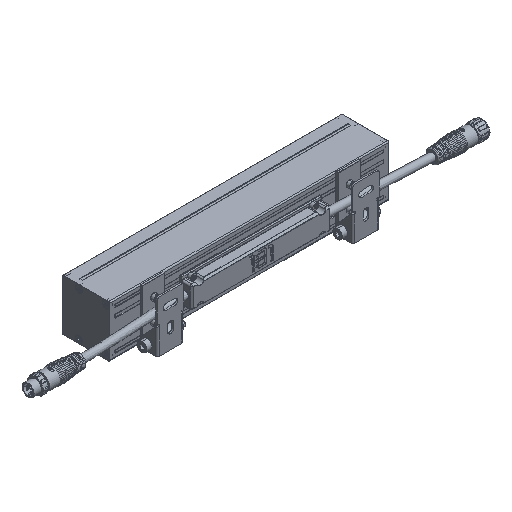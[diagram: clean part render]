
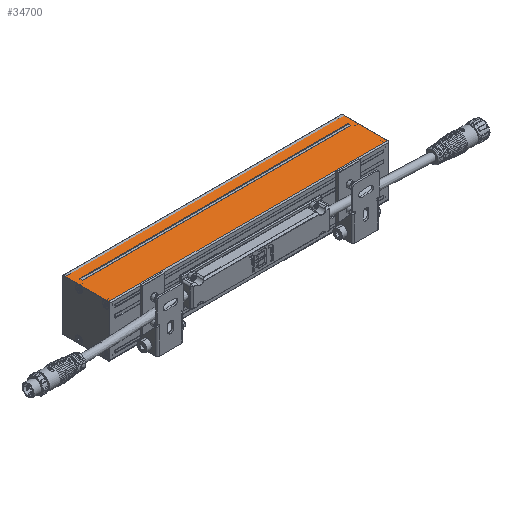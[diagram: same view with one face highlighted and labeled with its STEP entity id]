
A CAD part, isometric view. The second image highlights one B-rep face of the part: STEP entity #34700.
In plain terms, the highlighted planar face has unit normal (0, 0, 1).
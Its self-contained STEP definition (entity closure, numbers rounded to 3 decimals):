
#29 = AXIS2_PLACEMENT_3D ( 'NONE', #28661, #28434, #17991 ) ;
#2265 = LINE ( 'NONE', #37986, #38588 ) ;
#2694 = EDGE_CURVE ( 'NONE', #42767, #36406, #13597, .T. ) ;
#2970 = VECTOR ( 'NONE', #8075, 1000. ) ;
#3177 = DIRECTION ( 'NONE',  ( -1., 0., 0. ) ) ;
#3619 = FACE_OUTER_BOUND ( 'NONE', #38873, .T. ) ;
#3625 = DIRECTION ( 'NONE',  ( 1., 0., 0. ) ) ;
#3873 = VERTEX_POINT ( 'NONE', #8732 ) ;
#4139 = VECTOR ( 'NONE', #9908, 1000. ) ;
#4234 = ORIENTED_EDGE ( 'NONE', *, *, #34027, .F. ) ;
#4340 = VERTEX_POINT ( 'NONE', #43815 ) ;
#5884 = EDGE_CURVE ( 'NONE', #22429, #19427, #45108, .T. ) ;
#7055 = CARTESIAN_POINT ( 'NONE',  ( 124.8, 18., 23. ) ) ;
#7353 = FACE_BOUND ( 'NONE', #26880, .T. ) ;
#8063 = DIRECTION ( 'NONE',  ( -1., 0., 0. ) ) ;
#8075 = DIRECTION ( 'NONE',  ( 0., 1., 0. ) ) ;
#8732 = CARTESIAN_POINT ( 'NONE',  ( -124.8, 56.8, 23. ) ) ;
#8802 = VECTOR ( 'NONE', #8063, 1000. ) ;
#9232 = LINE ( 'NONE', #37284, #11609 ) ;
#9324 = ORIENTED_EDGE ( 'NONE', *, *, #12240, .T. ) ;
#9532 = CARTESIAN_POINT ( 'NONE',  ( -124.8, 18., 23. ) ) ;
#9908 = DIRECTION ( 'NONE',  ( 0., 1., 0. ) ) ;
#10465 = CARTESIAN_POINT ( 'NONE',  ( 120., 46.1, 23. ) ) ;
#10970 = ORIENTED_EDGE ( 'NONE', *, *, #21047, .T. ) ;
#11495 = ORIENTED_EDGE ( 'NONE', *, *, #35176, .F. ) ;
#11609 = VECTOR ( 'NONE', #15507, 1000. ) ;
#12068 = VECTOR ( 'NONE', #34891, 1000. ) ;
#12240 = EDGE_CURVE ( 'NONE', #22429, #40994, #9232, .T. ) ;
#13597 = LINE ( 'NONE', #20572, #36231 ) ;
#15507 = DIRECTION ( 'NONE',  ( 0., 1., 0. ) ) ;
#15659 = EDGE_CURVE ( 'NONE', #30532, #26973, #17787, .T. ) ;
#15832 = CARTESIAN_POINT ( 'NONE',  ( -120., 56.8, 23. ) ) ;
#16560 = ORIENTED_EDGE ( 'NONE', *, *, #2694, .F. ) ;
#17787 = LINE ( 'NONE', #40801, #27327 ) ;
#17991 = DIRECTION ( 'NONE',  ( 0., 1., 0. ) ) ;
#18383 = LINE ( 'NONE', #32518, #31248 ) ;
#18727 = CARTESIAN_POINT ( 'NONE',  ( -124.8, 18., 23. ) ) ;
#18944 = CARTESIAN_POINT ( 'NONE',  ( 124.8, 56.8, 23. ) ) ;
#19427 = VERTEX_POINT ( 'NONE', #9532 ) ;
#19830 = EDGE_CURVE ( 'NONE', #35746, #26973, #23323, .T. ) ;
#20572 = CARTESIAN_POINT ( 'NONE',  ( -120., 56.8, 23. ) ) ;
#20736 = VECTOR ( 'NONE', #30504, 1000. ) ;
#21047 = EDGE_CURVE ( 'NONE', #35746, #4340, #2265, .T. ) ;
#22429 = VERTEX_POINT ( 'NONE', #45681 ) ;
#22442 = ORIENTED_EDGE ( 'NONE', *, *, #28955, .T. ) ;
#23323 = LINE ( 'NONE', #37449, #20736 ) ;
#23610 = CARTESIAN_POINT ( 'NONE',  ( -120., 18., 23. ) ) ;
#25394 = ORIENTED_EDGE ( 'NONE', *, *, #5884, .F. ) ;
#26751 = ORIENTED_EDGE ( 'NONE', *, *, #33095, .T. ) ;
#26880 = EDGE_LOOP ( 'NONE', ( #10970, #22442, #31117, #39314 ) ) ;
#26973 = VERTEX_POINT ( 'NONE', #27481 ) ;
#27327 = VECTOR ( 'NONE', #3625, 1000. ) ;
#27481 = CARTESIAN_POINT ( 'NONE',  ( 120., 48.7, 23. ) ) ;
#27966 = DIRECTION ( 'NONE',  ( 1., 0., 0. ) ) ;
#28434 = DIRECTION ( 'NONE',  ( 0., 0., 1. ) ) ;
#28661 = CARTESIAN_POINT ( 'NONE',  ( 125., 17.8, 23. ) ) ;
#28955 = EDGE_CURVE ( 'NONE', #4340, #30532, #44245, .T. ) ;
#29140 = LINE ( 'NONE', #35670, #8802 ) ;
#30504 = DIRECTION ( 'NONE',  ( 0., 1., 0. ) ) ;
#30532 = VERTEX_POINT ( 'NONE', #31906 ) ;
#31117 = ORIENTED_EDGE ( 'NONE', *, *, #15659, .T. ) ;
#31248 = VECTOR ( 'NONE', #39456, 1000. ) ;
#31906 = CARTESIAN_POINT ( 'NONE',  ( -120., 48.7, 23. ) ) ;
#31910 = PLANE ( 'NONE',  #29 ) ;
#32518 = CARTESIAN_POINT ( 'NONE',  ( 120., 56.8, 23. ) ) ;
#33095 = EDGE_CURVE ( 'NONE', #42767, #3873, #29140, .T. ) ;
#34027 = EDGE_CURVE ( 'NONE', #19427, #3873, #43787, .T. ) ;
#34700 = ADVANCED_FACE ( 'NONE', ( #7353, #3619 ), #31910, .T. ) ;
#34891 = DIRECTION ( 'NONE',  ( -1., 0., 0. ) ) ;
#35176 = EDGE_CURVE ( 'NONE', #36406, #40994, #18383, .T. ) ;
#35670 = CARTESIAN_POINT ( 'NONE',  ( -120., 56.8, 23. ) ) ;
#35746 = VERTEX_POINT ( 'NONE', #10465 ) ;
#36231 = VECTOR ( 'NONE', #27966, 1000. ) ;
#36406 = VERTEX_POINT ( 'NONE', #44508 ) ;
#37284 = CARTESIAN_POINT ( 'NONE',  ( 124.8, 18., 23. ) ) ;
#37449 = CARTESIAN_POINT ( 'NONE',  ( 120., 18., 23. ) ) ;
#37986 = CARTESIAN_POINT ( 'NONE',  ( 120., 46.1, 23. ) ) ;
#38588 = VECTOR ( 'NONE', #3177, 1000. ) ;
#38873 = EDGE_LOOP ( 'NONE', ( #4234, #25394, #9324, #11495, #16560, #26751 ) ) ;
#39314 = ORIENTED_EDGE ( 'NONE', *, *, #19830, .F. ) ;
#39456 = DIRECTION ( 'NONE',  ( 1., 0., 0. ) ) ;
#40801 = CARTESIAN_POINT ( 'NONE',  ( -120., 48.7, 23. ) ) ;
#40994 = VERTEX_POINT ( 'NONE', #18944 ) ;
#42767 = VERTEX_POINT ( 'NONE', #15832 ) ;
#43787 = LINE ( 'NONE', #18727, #2970 ) ;
#43815 = CARTESIAN_POINT ( 'NONE',  ( -120., 46.1, 23. ) ) ;
#44245 = LINE ( 'NONE', #23610, #4139 ) ;
#44508 = CARTESIAN_POINT ( 'NONE',  ( 120., 56.8, 23. ) ) ;
#45108 = LINE ( 'NONE', #7055, #12068 ) ;
#45681 = CARTESIAN_POINT ( 'NONE',  ( 124.8, 18., 23. ) ) ;
